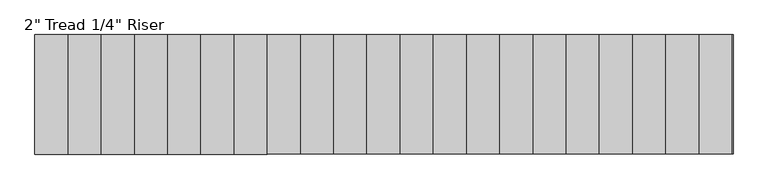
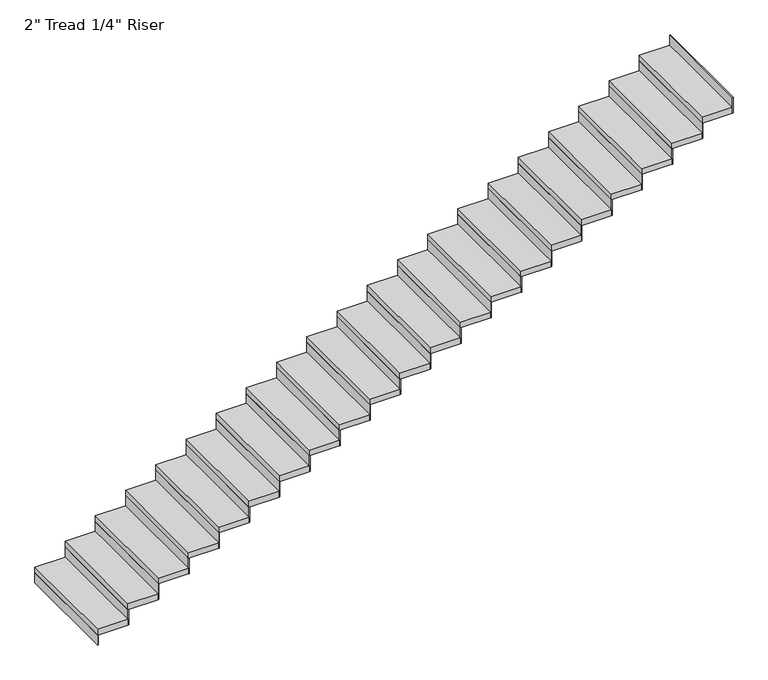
"""IFC4 building model written with IfcOpenShell, lengths in millimetres: stair flight geometry."""

from ifc_helpers import new_model, si_unit, frame, origin, origin_with_axes, place, context, project, spatial, polyline, outline, extrude, source, transform, mapped, element, save


def stair_flight_e91a5aed(model_context):
    return source(origin(), model_context, "Body", "SweptSolid", [
        extrude(outline(polyline([(-1725.3713318, 6677.964969), (-1731.7213318, 6677.964969), (-1731.7213318, 7592.364969), (-1725.3713318, 7592.364969), (-1725.3713318, 6677.964969)])), origin_with_axes(), (0.0, 0.0, 1.0), 87.7454545),
        extrude(outline(polyline([(-1477.7213318, 7592.364969), (-1477.7213318, 6677.964969), (-1731.7213318, 6677.964969), (-1731.7213318, 7592.364969), (-1477.7213318, 7592.364969)])), frame((0.0, 0.0, 87.7454545), z_axis=(0.0, 0.0, 1.0), x_axis=(1.0, 0.0, 0.0)), (0.0, 0.0, 1.0), 50.8),
        extrude(outline(polyline([(-1471.3713318, 6677.964969), (-1477.7213318, 6677.964969), (-1477.7213318, 7592.364969), (-1471.3713318, 7592.364969), (-1471.3713318, 6677.964969)])), frame((0.0, 0.0, 87.7454545), z_axis=(0.0, 0.0, 1.0), x_axis=(1.0, 0.0, 0.0)), (0.0, 0.0, 1.0), 138.5454545),
        extrude(outline(polyline([(-1223.7213318, 7592.364969), (-1223.7213318, 6677.964969), (-1477.7213318, 6677.964969), (-1477.7213318, 7592.364969), (-1223.7213318, 7592.364969)])), frame((0.0, 0.0, 226.2909091), z_axis=(0.0, 0.0, 1.0), x_axis=(1.0, 0.0, 0.0)), (0.0, 0.0, 1.0), 50.8),
        extrude(outline(polyline([(-1217.3713318, 6677.964969), (-1223.7213318, 6677.964969), (-1223.7213318, 7592.364969), (-1217.3713318, 7592.364969), (-1217.3713318, 6677.964969)])), frame((0.0, 0.0, 226.2909091), z_axis=(0.0, 0.0, 1.0), x_axis=(1.0, 0.0, 0.0)), (0.0, 0.0, 1.0), 138.5454545),
        extrude(outline(polyline([(-969.7213318, 7592.364969), (-969.7213318, 6677.964969), (-1223.7213318, 6677.964969), (-1223.7213318, 7592.364969), (-969.7213318, 7592.364969)])), frame((0.0, 0.0, 364.8363636), z_axis=(0.0, 0.0, 1.0), x_axis=(1.0, 0.0, 0.0)), (0.0, 0.0, 1.0), 50.8),
        extrude(outline(polyline([(-963.3713318, 6677.964969), (-969.7213318, 6677.964969), (-969.7213318, 7592.364969), (-963.3713318, 7592.364969), (-963.3713318, 6677.964969)])), frame((0.0, 0.0, 364.8363636), z_axis=(0.0, 0.0, 1.0), x_axis=(1.0, 0.0, 0.0)), (0.0, 0.0, 1.0), 138.5454545),
        extrude(outline(polyline([(-715.7213318, 7592.364969), (-715.7213318, 6677.964969), (-969.7213318, 6677.964969), (-969.7213318, 7592.364969), (-715.7213318, 7592.364969)])), frame((0.0, 0.0, 503.3818182), z_axis=(0.0, 0.0, 1.0), x_axis=(1.0, 0.0, 0.0)), (0.0, 0.0, 1.0), 50.8),
        extrude(outline(polyline([(-709.3713318, 6677.964969), (-715.7213318, 6677.964969), (-715.7213318, 7592.364969), (-709.3713318, 7592.364969), (-709.3713318, 6677.964969)])), frame((0.0, 0.0, 503.3818182), z_axis=(0.0, 0.0, 1.0), x_axis=(1.0, 0.0, 0.0)), (0.0, 0.0, 1.0), 138.5454545),
        extrude(outline(polyline([(-461.7213318, 7592.364969), (-461.7213318, 6677.964969), (-715.7213318, 6677.964969), (-715.7213318, 7592.364969), (-461.7213318, 7592.364969)])), frame((0.0, 0.0, 641.9272727), z_axis=(0.0, 0.0, 1.0), x_axis=(1.0, 0.0, 0.0)), (0.0, 0.0, 1.0), 50.8),
        extrude(outline(polyline([(-455.3713318, 6677.964969), (-461.7213318, 6677.964969), (-461.7213318, 7592.364969), (-455.3713318, 7592.364969), (-455.3713318, 6677.964969)])), frame((0.0, 0.0, 641.9272727), z_axis=(0.0, 0.0, 1.0), x_axis=(1.0, 0.0, 0.0)), (0.0, 0.0, 1.0), 138.5454545),
        extrude(outline(polyline([(-207.7213318, 7592.364969), (-207.7213318, 6677.964969), (-461.7213318, 6677.964969), (-461.7213318, 7592.364969), (-207.7213318, 7592.364969)])), frame((0.0, 0.0, 780.4727273), z_axis=(0.0, 0.0, 1.0), x_axis=(1.0, 0.0, 0.0)), (0.0, 0.0, 1.0), 50.8),
        extrude(outline(polyline([(-201.3713318, 6677.964969), (-207.7213318, 6677.964969), (-207.7213318, 7592.364969), (-201.3713318, 7592.364969), (-201.3713318, 6677.964969)])), frame((0.0, 0.0, 780.4727273), z_axis=(0.0, 0.0, 1.0), x_axis=(1.0, 0.0, 0.0)), (0.0, 0.0, 1.0), 138.5454545),
        extrude(outline(polyline([(46.2786682, 7592.364969), (46.2786682, 6677.964969), (-207.7213318, 6677.964969), (-207.7213318, 7592.364969), (46.2786682, 7592.364969)])), frame((0.0, 0.0, 919.0181818), z_axis=(0.0, 0.0, 1.0), x_axis=(1.0, 0.0, 0.0)), (0.0, 0.0, 1.0), 50.8),
        extrude(outline(polyline([(52.6286682, 6677.964969), (46.2786682, 6677.964969), (46.2786682, 7592.364969), (52.6286682, 7592.364969), (52.6286682, 6677.964969)])), frame((0.0, 0.0, 919.0181818), z_axis=(0.0, 0.0, 1.0), x_axis=(1.0, 0.0, 0.0)), (0.0, 0.0, 1.0), 138.5454545),
        extrude(outline(polyline([(300.2786682, 7592.364969), (300.2786682, 6677.964969), (46.2786682, 6677.964969), (46.2786682, 7592.364969), (300.2786682, 7592.364969)])), frame((0.0, 0.0, 1057.5636364), z_axis=(0.0, 0.0, 1.0), x_axis=(1.0, 0.0, 0.0)), (0.0, 0.0, 1.0), 50.8),
        extrude(outline(polyline([(306.6286682, 6677.964969), (300.2786682, 6677.964969), (300.2786682, 7592.364969), (306.6286682, 7592.364969), (306.6286682, 6677.964969)])), frame((0.0, 0.0, 1057.5636364), z_axis=(0.0, 0.0, 1.0), x_axis=(1.0, 0.0, 0.0)), (0.0, 0.0, 1.0), 138.5454545),
        extrude(outline(polyline([(554.2786682, 7592.364969), (554.2786682, 6677.964969), (300.2786682, 6677.964969), (300.2786682, 7592.364969), (554.2786682, 7592.364969)])), frame((0.0, 0.0, 1196.1090909), z_axis=(0.0, 0.0, 1.0), x_axis=(1.0, 0.0, 0.0)), (0.0, 0.0, 1.0), 50.8),
        extrude(outline(polyline([(560.6286682, 6677.964969), (554.2786682, 6677.964969), (554.2786682, 7592.364969), (560.6286682, 7592.364969), (560.6286682, 6677.964969)])), frame((0.0, 0.0, 1196.1090909), z_axis=(0.0, 0.0, 1.0), x_axis=(1.0, 0.0, 0.0)), (0.0, 0.0, 1.0), 138.5454545),
        extrude(outline(polyline([(808.2786682, 7592.364969), (808.2786682, 6677.964969), (554.2786682, 6677.964969), (554.2786682, 7592.364969), (808.2786682, 7592.364969)])), frame((0.0, 0.0, 1334.6545455), z_axis=(0.0, 0.0, 1.0), x_axis=(1.0, 0.0, 0.0)), (0.0, 0.0, 1.0), 50.8),
        extrude(outline(polyline([(814.6286682, 6677.964969), (808.2786682, 6677.964969), (808.2786682, 7592.364969), (814.6286682, 7592.364969), (814.6286682, 6677.964969)])), frame((0.0, 0.0, 1334.6545455), z_axis=(0.0, 0.0, 1.0), x_axis=(1.0, 0.0, 0.0)), (0.0, 0.0, 1.0), 138.5454545),
        extrude(outline(polyline([(1062.2786682, 7592.364969), (1062.2786682, 6677.964969), (808.2786682, 6677.964969), (808.2786682, 7592.364969), (1062.2786682, 7592.364969)])), frame((0.0, 0.0, 1473.2), z_axis=(0.0, 0.0, 1.0), x_axis=(1.0, 0.0, 0.0)), (0.0, 0.0, 1.0), 50.8),
        extrude(outline(polyline([(1068.6286682, 6677.964969), (1062.2786682, 6677.964969), (1062.2786682, 7592.364969), (1068.6286682, 7592.364969), (1068.6286682, 6677.964969)])), frame((0.0, 0.0, 1473.2), z_axis=(0.0, 0.0, 1.0), x_axis=(1.0, 0.0, 0.0)), (0.0, 0.0, 1.0), 138.5454545),
        extrude(outline(polyline([(1316.2786682, 7592.364969), (1316.2786682, 6677.964969), (1062.2786682, 6677.964969), (1062.2786682, 7592.364969), (1316.2786682, 7592.364969)])), frame((0.0, 0.0, 1611.7454545), z_axis=(0.0, 0.0, 1.0), x_axis=(1.0, 0.0, 0.0)), (0.0, 0.0, 1.0), 50.8),
        extrude(outline(polyline([(1322.6286682, 6677.964969), (1316.2786682, 6677.964969), (1316.2786682, 7592.364969), (1322.6286682, 7592.364969), (1322.6286682, 6677.964969)])), frame((0.0, 0.0, 1611.7454545), z_axis=(0.0, 0.0, 1.0), x_axis=(1.0, 0.0, 0.0)), (0.0, 0.0, 1.0), 138.5454545),
        extrude(outline(polyline([(1570.2786682, 7592.364969), (1570.2786682, 6677.964969), (1316.2786682, 6677.964969), (1316.2786682, 7592.364969), (1570.2786682, 7592.364969)])), frame((0.0, 0.0, 1750.2909091), z_axis=(0.0, 0.0, 1.0), x_axis=(1.0, 0.0, 0.0)), (0.0, 0.0, 1.0), 50.8),
        extrude(outline(polyline([(1576.6286682, 6677.964969), (1570.2786682, 6677.964969), (1570.2786682, 7592.364969), (1576.6286682, 7592.364969), (1576.6286682, 6677.964969)])), frame((0.0, 0.0, 1750.2909091), z_axis=(0.0, 0.0, 1.0), x_axis=(1.0, 0.0, 0.0)), (0.0, 0.0, 1.0), 138.5454545),
        extrude(outline(polyline([(1824.2786682, 7592.364969), (1824.2786682, 6677.964969), (1570.2786682, 6677.964969), (1570.2786682, 7592.364969), (1824.2786682, 7592.364969)])), frame((0.0, 0.0, 1888.8363636), z_axis=(0.0, 0.0, 1.0), x_axis=(1.0, 0.0, 0.0)), (0.0, 0.0, 1.0), 50.8),
        extrude(outline(polyline([(1830.6286682, 6677.964969), (1824.2786682, 6677.964969), (1824.2786682, 7592.364969), (1830.6286682, 7592.364969), (1830.6286682, 6677.964969)])), frame((0.0, 0.0, 1888.8363636), z_axis=(0.0, 0.0, 1.0), x_axis=(1.0, 0.0, 0.0)), (0.0, 0.0, 1.0), 138.5454545),
        extrude(outline(polyline([(2078.2786682, 7592.364969), (2078.2786682, 6677.964969), (1824.2786682, 6677.964969), (1824.2786682, 7592.364969), (2078.2786682, 7592.364969)])), frame((0.0, 0.0, 2027.3818182), z_axis=(0.0, 0.0, 1.0), x_axis=(1.0, 0.0, 0.0)), (0.0, 0.0, 1.0), 50.8),
        extrude(outline(polyline([(2084.6286682, 6677.964969), (2078.2786682, 6677.964969), (2078.2786682, 7592.364969), (2084.6286682, 7592.364969), (2084.6286682, 6677.964969)])), frame((0.0, 0.0, 2027.3818182), z_axis=(0.0, 0.0, 1.0), x_axis=(1.0, 0.0, 0.0)), (0.0, 0.0, 1.0), 138.5454545),
        extrude(outline(polyline([(2332.2786682, 7592.364969), (2332.2786682, 6677.964969), (2078.2786682, 6677.964969), (2078.2786682, 7592.364969), (2332.2786682, 7592.364969)])), frame((0.0, 0.0, 2165.9272727), z_axis=(0.0, 0.0, 1.0), x_axis=(1.0, 0.0, 0.0)), (0.0, 0.0, 1.0), 50.8),
        extrude(outline(polyline([(2338.6286682, 6677.964969), (2332.2786682, 6677.964969), (2332.2786682, 7592.364969), (2338.6286682, 7592.364969), (2338.6286682, 6677.964969)])), frame((0.0, 0.0, 2165.9272727), z_axis=(0.0, 0.0, 1.0), x_axis=(1.0, 0.0, 0.0)), (0.0, 0.0, 1.0), 138.5454545),
        extrude(outline(polyline([(2586.2786682, 7592.364969), (2586.2786682, 6677.964969), (2332.2786682, 6677.964969), (2332.2786682, 7592.364969), (2586.2786682, 7592.364969)])), frame((0.0, 0.0, 2304.4727273), z_axis=(0.0, 0.0, 1.0), x_axis=(1.0, 0.0, 0.0)), (0.0, 0.0, 1.0), 50.8),
        extrude(outline(polyline([(2592.6286682, 6677.964969), (2586.2786682, 6677.964969), (2586.2786682, 7592.364969), (2592.6286682, 7592.364969), (2592.6286682, 6677.964969)])), frame((0.0, 0.0, 2304.4727273), z_axis=(0.0, 0.0, 1.0), x_axis=(1.0, 0.0, 0.0)), (0.0, 0.0, 1.0), 138.5454545),
        extrude(outline(polyline([(2840.2786682, 7592.364969), (2840.2786682, 6677.964969), (2586.2786682, 6677.964969), (2586.2786682, 7592.364969), (2840.2786682, 7592.364969)])), frame((0.0, 0.0, 2443.0181818), z_axis=(0.0, 0.0, 1.0), x_axis=(1.0, 0.0, 0.0)), (0.0, 0.0, 1.0), 50.8),
        extrude(outline(polyline([(2846.6286682, 6677.964969), (2840.2786682, 6677.964969), (2840.2786682, 7592.364969), (2846.6286682, 7592.364969), (2846.6286682, 6677.964969)])), frame((0.0, 0.0, 2443.0181818), z_axis=(0.0, 0.0, 1.0), x_axis=(1.0, 0.0, 0.0)), (0.0, 0.0, 1.0), 138.5454545),
        extrude(outline(polyline([(3094.2786682, 7592.364969), (3094.2786682, 6677.964969), (2840.2786682, 6677.964969), (2840.2786682, 7592.364969), (3094.2786682, 7592.364969)])), frame((0.0, 0.0, 2581.5636364), z_axis=(0.0, 0.0, 1.0), x_axis=(1.0, 0.0, 0.0)), (0.0, 0.0, 1.0), 50.8),
        extrude(outline(polyline([(3100.6286682, 6677.964969), (3094.2786682, 6677.964969), (3094.2786682, 7592.364969), (3100.6286682, 7592.364969), (3100.6286682, 6677.964969)])), frame((0.0, 0.0, 2581.5636364), z_axis=(0.0, 0.0, 1.0), x_axis=(1.0, 0.0, 0.0)), (0.0, 0.0, 1.0), 138.5454545),
        extrude(outline(polyline([(3348.2786682, 7592.364969), (3348.2786682, 6677.964969), (3094.2786682, 6677.964969), (3094.2786682, 7592.364969), (3348.2786682, 7592.364969)])), frame((0.0, 0.0, 2720.1090909), z_axis=(0.0, 0.0, 1.0), x_axis=(1.0, 0.0, 0.0)), (0.0, 0.0, 1.0), 50.8),
        extrude(outline(polyline([(3354.6286682, 6677.964969), (3348.2786682, 6677.964969), (3348.2786682, 7592.364969), (3354.6286682, 7592.364969), (3354.6286682, 6677.964969)])), frame((0.0, 0.0, 2720.1090909), z_axis=(0.0, 0.0, 1.0), x_axis=(1.0, 0.0, 0.0)), (0.0, 0.0, 1.0), 138.5454545),
        extrude(outline(polyline([(3608.6286682, 6677.964969), (3602.2786682, 6677.964969), (3602.2786682, 7592.364969), (3608.6286682, 7592.364969), (3608.6286682, 6677.964969)])), frame((0.0, 0.0, 2858.6545455), z_axis=(0.0, 0.0, 1.0), x_axis=(1.0, 0.0, 0.0)), (0.0, 0.0, 1.0), 138.5454545),
        extrude(outline(polyline([(3602.2786682, 7592.364969), (3602.2786682, 6677.964969), (3348.2786682, 6677.964969), (3348.2786682, 7592.364969), (3602.2786682, 7592.364969)])), frame((0.0, 0.0, 2858.6545455), z_axis=(0.0, 0.0, 1.0), x_axis=(1.0, 0.0, 0.0)), (0.0, 0.0, 1.0), 50.8),
    ])


if __name__ == "__main__":
    model = new_model("IFC4")
    model_context = context("Model", 3, world=origin())
    ifc_project = project(units=[si_unit("LENGTHUNIT", "METRE", prefix="MILLI")], contexts=[model_context])
    site = spatial("IfcSite", under=ifc_project)
    building = spatial("IfcBuilding", under=site)
    placement = place(None, origin())
    stair_flight_shape = stair_flight_e91a5aed(model_context)
    element("IfcStairFlight", 1, ObjectType="2\" Tread 1/4\" Riser", at=placement, inside=building, context=model_context, shape_type="MappedRepresentation", body=[
        mapped(stair_flight_shape, transform((0.0, 0.0, 0.0), x_axis=(1.0, 0.0, 0.0), y_axis=(0.0, 1.0, 0.0), z_axis=(0.0, 0.0, 1.0))),
    ])
    save(model, "model.ifc")
